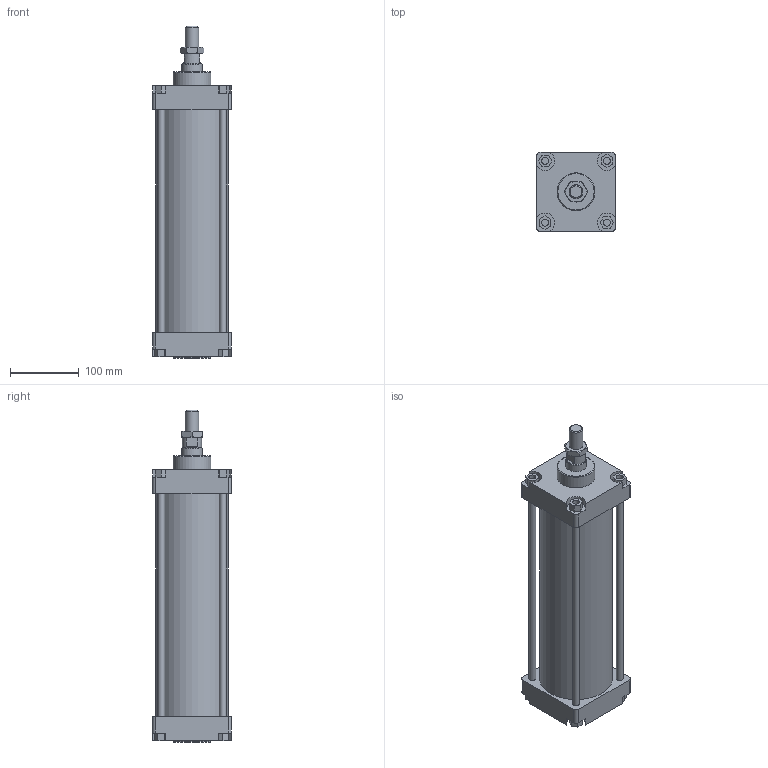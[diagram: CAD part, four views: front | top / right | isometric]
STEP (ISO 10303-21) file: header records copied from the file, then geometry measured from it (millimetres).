
FILE_DESCRIPTION(/* description */ (''),/* implementation_level */ '2;1');
FILE_NAME(/* name */ 'I:\Area Tecnica\Disegni\VARIE-3D\Componenti\CSP\Ø100\130#_100_####_###\130#_100_0250_01A.stp',/* time_stamp */ '2016-11-24T13:51:30+01:00',/* author */ ('Maniean1'),/* organization */ ('Pneumax S.p.A.'),/* preprocessor_version */ 'ST-DEVELOPER v15.2',/* originating_system */ 'Autodesk Inventor 2014',/* authorisation */ '');
FILE_SCHEMA (('AUTOMOTIVE_DESIGN { 1 0 10303 214 3 1 1 }'));
Length unit declared in the file: millimetre
Products named in the file (6): C_130#_100_0250; Testata anteriore_100; Testata posteriore_100; S_130#_100_0250_01A; 130#_100_18F; 130#_100_0250_01A
Bounding box: 115 x 115 x 484 mm (x, y, z)
Volume: 2103326.2 mm3; surface area: 440706.9 mm2
Topology: 9 solids, 9 shells, 162 faces, 380 edges, 249 vertices
Faces by surface type: plane 105, cylinder 42, cone 15
Full cylindrical faces by diameter (mm): 10 x12, 18.376 x1, 18.5 x1, 19 x2, 20 x1, 28 x1, 30 x3, 55 x2, 100 x2, 106 x1
Entity records: 4530 total; most frequent: CARTESIAN_POINT 785, DIRECTION 764, ORIENTED_EDGE 672, EDGE_CURVE 336, AXIS2_PLACEMENT_3D 271, VERTEX_POINT 244, EDGE_LOOP 236, LINE 222
